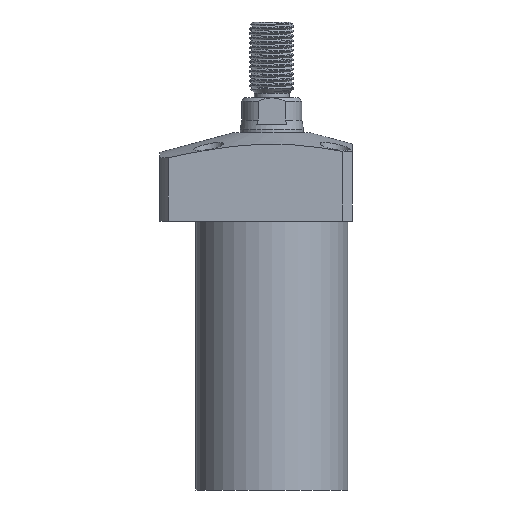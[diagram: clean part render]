
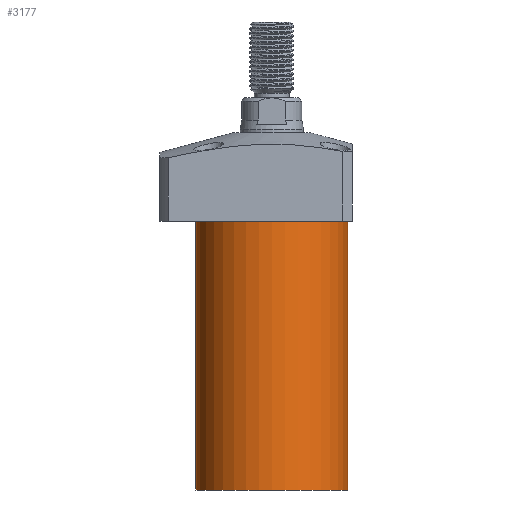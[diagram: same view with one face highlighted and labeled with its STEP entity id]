
A CAD part, front view. The second image highlights one B-rep face of the part: STEP entity #3177.
In plain terms, the highlighted cylindrical face has radius 24 mm (diameter 48 mm), a partial arc.
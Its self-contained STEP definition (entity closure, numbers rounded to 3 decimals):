
#70 = EDGE_CURVE ( 'NONE', #4618, #1901, #954, .T. ) ;
#215 = DIRECTION ( 'NONE',  ( 0., 0., -1. ) ) ;
#359 = EDGE_LOOP ( 'NONE', ( #2642, #2620, #4149, #1565 ) ) ;
#535 = CARTESIAN_POINT ( 'NONE',  ( 0., 0., -99. ) ) ;
#559 = VECTOR ( 'NONE', #3064, 1000. ) ;
#579 = VERTEX_POINT ( 'NONE', #4004 ) ;
#626 = DIRECTION ( 'NONE',  ( -1., 0., 0. ) ) ;
#667 = DIRECTION ( 'NONE',  ( 0., 0., -1. ) ) ;
#822 = CIRCLE ( 'NONE', #4944, 24. ) ;
#925 = CARTESIAN_POINT ( 'NONE',  ( 24., 0., -99. ) ) ;
#954 = CIRCLE ( 'NONE', #2024, 24. ) ;
#1393 = EDGE_CURVE ( 'NONE', #3417, #579, #822, .T. ) ;
#1478 = LINE ( 'NONE', #925, #4123 ) ;
#1565 = ORIENTED_EDGE ( 'NONE', *, *, #1393, .T. ) ;
#1601 = LINE ( 'NONE', #2256, #559 ) ;
#1693 = DIRECTION ( 'NONE',  ( 0., 0., 1. ) ) ;
#1901 = VERTEX_POINT ( 'NONE', #4850 ) ;
#2024 = AXIS2_PLACEMENT_3D ( 'NONE', #2594, #215, #626 ) ;
#2082 = CARTESIAN_POINT ( 'NONE',  ( 24., 0., -99. ) ) ;
#2256 = CARTESIAN_POINT ( 'NONE',  ( -24., 0., -99. ) ) ;
#2594 = CARTESIAN_POINT ( 'NONE',  ( 0., 0., -99. ) ) ;
#2620 = ORIENTED_EDGE ( 'NONE', *, *, #70, .F. ) ;
#2642 = ORIENTED_EDGE ( 'NONE', *, *, #3283, .F. ) ;
#3056 = DIRECTION ( 'NONE',  ( 1., 0., 0. ) ) ;
#3064 = DIRECTION ( 'NONE',  ( 0., 0., 1. ) ) ;
#3177 = ADVANCED_FACE ( 'NONE', ( #4674 ), #3636, .T. ) ;
#3283 = EDGE_CURVE ( 'NONE', #1901, #579, #1601, .T. ) ;
#3417 = VERTEX_POINT ( 'NONE', #3896 ) ;
#3636 = CYLINDRICAL_SURFACE ( 'NONE', #5071, 24. ) ;
#3730 = DIRECTION ( 'NONE',  ( 0., 0., 1. ) ) ;
#3896 = CARTESIAN_POINT ( 'NONE',  ( 24., 0., -14. ) ) ;
#3936 = EDGE_CURVE ( 'NONE', #4618, #3417, #1478, .T. ) ;
#4004 = CARTESIAN_POINT ( 'NONE',  ( -24., 0., -14. ) ) ;
#4123 = VECTOR ( 'NONE', #1693, 1000. ) ;
#4149 = ORIENTED_EDGE ( 'NONE', *, *, #3936, .T. ) ;
#4182 = DIRECTION ( 'NONE',  ( 1., 0., 0. ) ) ;
#4276 = CARTESIAN_POINT ( 'NONE',  ( 0., 0., -14. ) ) ;
#4618 = VERTEX_POINT ( 'NONE', #2082 ) ;
#4674 = FACE_OUTER_BOUND ( 'NONE', #359, .T. ) ;
#4850 = CARTESIAN_POINT ( 'NONE',  ( -24., 0., -99. ) ) ;
#4944 = AXIS2_PLACEMENT_3D ( 'NONE', #4276, #667, #3056 ) ;
#5071 = AXIS2_PLACEMENT_3D ( 'NONE', #535, #3730, #4182 ) ;
